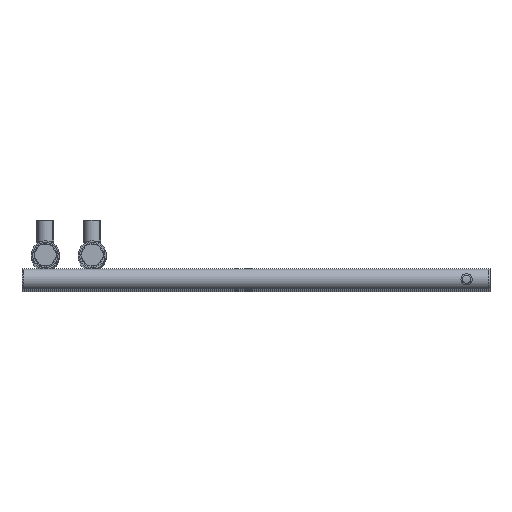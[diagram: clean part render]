
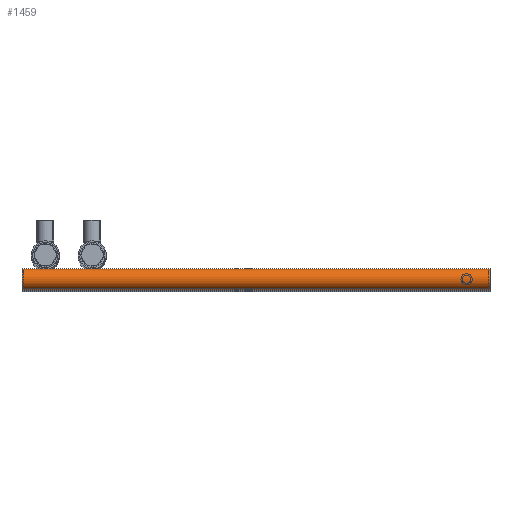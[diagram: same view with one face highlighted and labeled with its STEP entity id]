
A CAD part, top view. The second image highlights one B-rep face of the part: STEP entity #1459.
In plain terms, the highlighted cylindrical face has radius 11 mm (diameter 22 mm), a full revolution.
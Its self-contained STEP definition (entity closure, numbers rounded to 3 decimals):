
#346=CIRCLE('',#1596,11.);
#347=CIRCLE('',#1598,11.);
#466=FACE_BOUND('',#684,.T.);
#521=FACE_OUTER_BOUND('',#683,.T.);
#683=EDGE_LOOP('',(#1277));
#684=EDGE_LOOP('',(#1278));
#903=VERTEX_POINT('',#4209);
#904=VERTEX_POINT('',#4212);
#1036=EDGE_CURVE('',#903,#903,#346,.T.);
#1037=EDGE_CURVE('',#904,#904,#347,.T.);
#1277=ORIENTED_EDGE('',*,*,#1037,.F.);
#1278=ORIENTED_EDGE('',*,*,#1036,.T.);
#1410=CYLINDRICAL_SURFACE('',#1599,11.);
#1459=ADVANCED_FACE('',(#521,#466),#1410,.T.);
#1596=AXIS2_PLACEMENT_3D('',#4210,#1818,#1819);
#1598=AXIS2_PLACEMENT_3D('',#4213,#1822,#1823);
#1599=AXIS2_PLACEMENT_3D('',#4214,#1824,#1825);
#1818=DIRECTION('center_axis',(0.,0.,-1.));
#1819=DIRECTION('ref_axis',(-1.,0.,0.));
#1822=DIRECTION('center_axis',(0.,0.,-1.));
#1823=DIRECTION('ref_axis',(-1.,0.,0.));
#1824=DIRECTION('center_axis',(0.,0.,-1.));
#1825=DIRECTION('ref_axis',(-1.,0.,0.));
#4209=CARTESIAN_POINT('',(11.,-11.,0.));
#4210=CARTESIAN_POINT('Origin',(0.,-11.,0.));
#4212=CARTESIAN_POINT('',(11.,-11.,-500.));
#4213=CARTESIAN_POINT('Origin',(0.,-11.,-500.));
#4214=CARTESIAN_POINT('Origin',(0.,-11.,0.));
